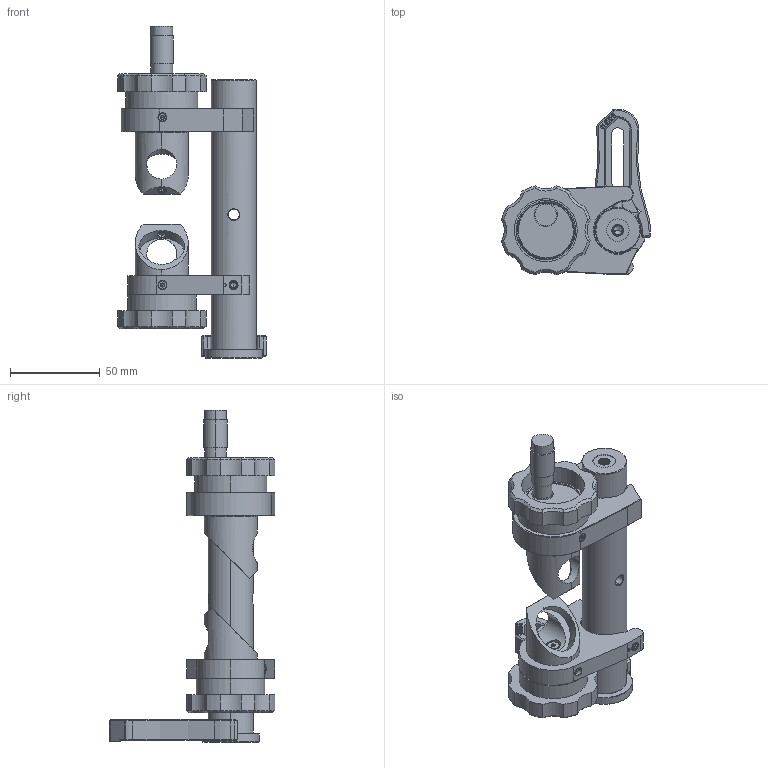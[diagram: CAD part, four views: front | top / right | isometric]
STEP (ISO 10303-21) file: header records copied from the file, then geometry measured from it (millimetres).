
FILE_DESCRIPTION((''),'2;1');
FILE_NAME('FRM1-CFJP150_ASM','2023-07-03T11:10:53',('R&D'),(''),'CREO PARAMETRIC BY PTC INC, 2021063','CREO PARAMETRIC BY PTC INC, 2021063','');
FILE_SCHEMA(('CONFIG_CONTROL_DESIGN'));
Products named in the file (34): FRM1-X2-5; FRM1-X3-5; FRM1-X5; FRM1-X2-7; FRM1-X2-8; FRM1-X4; FRM1-X2-10; FRM1-X2; FRM1-X2-15; FRM1-X3; FRM1-X2-45; FRM1-X2-25; FRM1-X2-11; FRM1-X2-14; ISO7380-1-M4X12-8_8; FRM1-X2-17; FRM1-X2-16_ASM; FRM1-X1_ASM; FRM1-A-21; FRM1-A-22; FRM1-A-23; FRM1-A-6; FRM1-A-24; FRM1-A-25; FRM1-A-9; FRM1-A-10; FRM1-A-3; FRM1-A-26; FRM1-A-1_ASM; FRM1-A-01_ASM; CFJP150-S; PCA31-S; M-BASE-C; FRM1-CFJP150_ASM
Assembly tree (34 placements, depth 4):
  FRM1-CFJP150_ASM
    FRM1-X1_ASM
      FRM1-X2-5
      FRM1-X3-5
      FRM1-X5
      FRM1-X2-7
      FRM1-X2-8
      FRM1-X4
      FRM1-X2-10
      FRM1-X2
      FRM1-X2-15
      FRM1-X3
      FRM1-X2-45
      FRM1-X2-25
      FRM1-X2-11  x2
      FRM1-X2-14
      ISO7380-1-M4X12-8_8
      FRM1-X2-16_ASM
        FRM1-X2-17
    FRM1-A-01_ASM
      FRM1-A-1_ASM
        FRM1-A-21
        FRM1-A-22
        FRM1-A-23
        FRM1-A-6
        FRM1-A-24
        FRM1-A-25
        FRM1-A-9
        FRM1-A-10
        FRM1-A-3
        FRM1-A-26
    CFJP150-S
    PCA31-S
    M-BASE-C
Bounding box: 82.81 x 92.16 x 184.56 mm (x, y, z)
Volume: 210214.1 mm3; surface area: 74442.2 mm2
Topology: 25 solids, 38 shells, 1216 faces, 2982 edges, 1875 vertices
Faces by surface type: plane 541, cylinder 379, cone 215, bspline 67, sphere 8, torus 6
Entity records: 54271 total; most frequent: CARTESIAN_POINT 25587, ORIENTED_EDGE 5810, DIRECTION 5716, EDGE_CURVE 2932, AXIS2_PLACEMENT_3D 2037, VERTEX_POINT 1869, VECTOR 1642, LINE 1642
